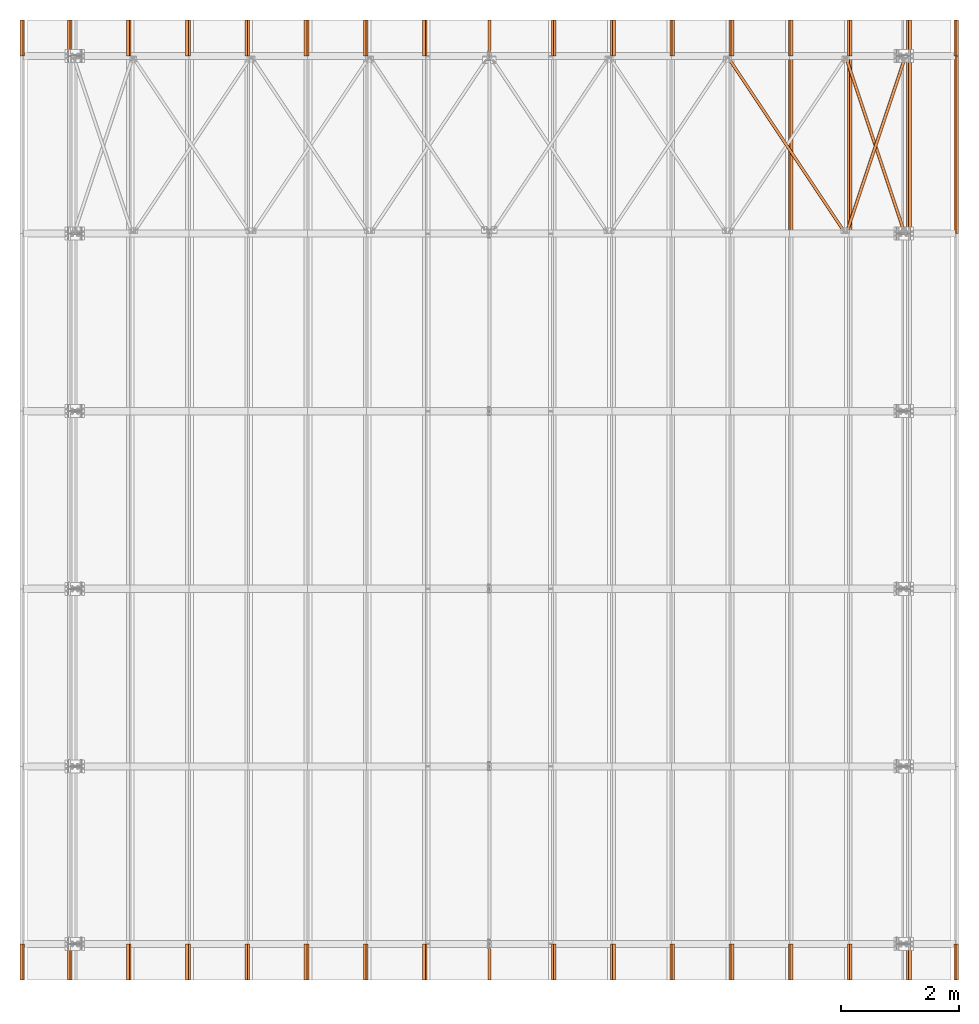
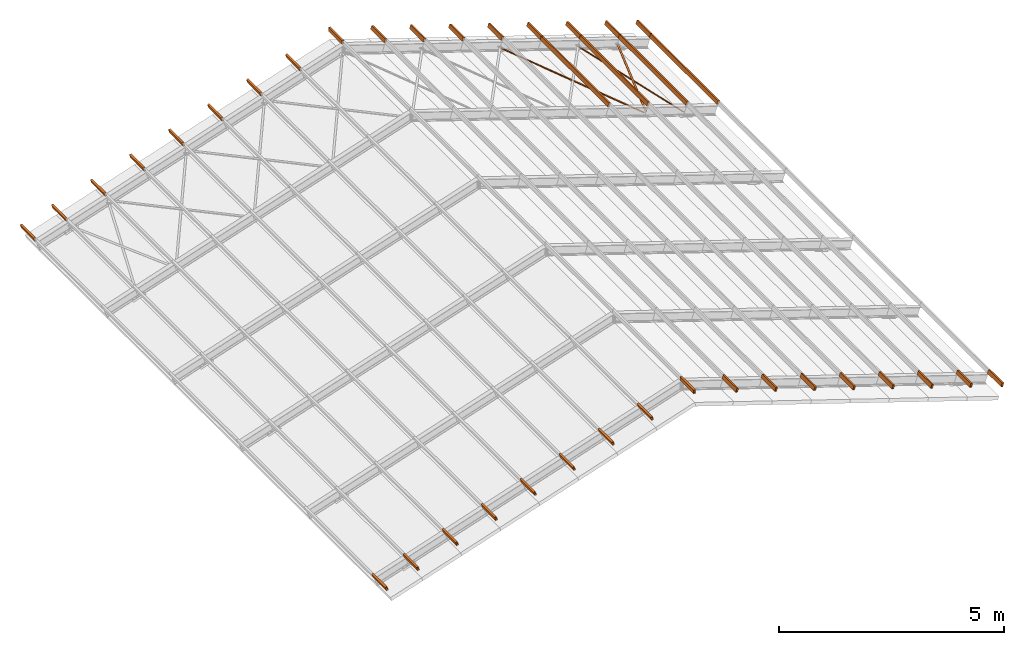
# One storey, part 53 of 53: 41 proxies.
"""IFC4 building model written with IfcOpenShell, lengths in metres."""

from ifc_helpers import new_model, si_unit, frame, frame_2d, origin_with_axes, origin_2d_with_axis, place, context, project, spatial, rectangle, hollow_rectangle, l_section, extrude, clip, halfspace, material, material_profile, profile_set, profile_usage, type_object, element, save


model = new_model("IFC4")

# Units and contexts
model_context = context("Model", 3, precision=1e-05, world=origin_with_axes())
ifc_project = project(units=[si_unit("LENGTHUNIT", "METRE"), si_unit("AREAUNIT", "SQUARE_METRE"), si_unit("VOLUMEUNIT", "CUBIC_METRE"), si_unit("MASSUNIT", "GRAM", prefix="KILO"), si_unit("TIMEUNIT", "SECOND"), si_unit("PLANEANGLEUNIT", "RADIAN"), si_unit("SOLIDANGLEUNIT", "STERADIAN"), si_unit("THERMODYNAMICTEMPERATUREUNIT", "DEGREE_CELSIUS")], contexts=[model_context])

# Site, building, storey
placement_1 = place(None, origin_with_axes())
site = spatial("IfcSite", under=ifc_project, at=placement_1, Name="Italia", CompositionType="ELEMENT")
building = spatial("IfcBuilding", under=site, at=placement_1, Name="Capannone", CompositionType="ELEMENT")
storey_placement = place(None, frame((0.0, 0.0, 5.550000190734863), z_axis=(0.0, 0.0, 1.0), x_axis=(1.0, 0.0, 0.0)))
storey = spatial("IfcBuildingStorey", under=building, at=storey_placement, Name="Storey 1", CompositionType="ELEMENT", Elevation=5.550000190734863)

# Proxies
ifc_material = material(Name="Acciaio", Category="Acciaio")
ifc_material_profile = material_profile(ifc_material, l_section(Depth=0.045, Width=0.045, Thickness=0.004, FilletRadius=0.0, EdgeRadius=0.0, at=origin_2d_with_axis()), Name="2 L45x4")
ifc_profile_set = profile_set([ifc_material_profile])
ifc_profile_usage_1 = profile_usage(ifc_profile_set, cardinal=8)
member_type_1 = type_object("IfcMemberType", Name="4 RHS100x50x3.2", PredefinedType="MEMBER", material=ifc_profile_usage_1)
placement_2 = place(placement_1, origin_with_axes())
proxy_1_placement = place(placement_2, origin_with_axes())
element("IfcBuildingElementProxy", 1, at=proxy_1_placement, inside=storey, type_object=member_type_1, Name="115", context=model_context, shape_type="SweptSolid", body=[
    extrude(hollow_rectangle(XDim=0.05, YDim=0.1, WallThickness=0.0032, at=origin_2d_with_axis()), frame((7.0, 0.0, 8.14), z_axis=(0.0, -1.0, 0.0), x_axis=(1.0, 0.0, 0.0)), (0.0, 0.0, 1.0), 0.61),
])
ifc_profile_usage_2 = profile_usage(ifc_profile_set, cardinal=8)
member_type_2 = type_object("IfcMemberType", Name="4 RHS100x50x3.2", PredefinedType="MEMBER", material=ifc_profile_usage_2)
proxy_2_placement = place(placement_2, origin_with_axes())
element("IfcBuildingElementProxy", 2, at=proxy_2_placement, inside=storey, type_object=member_type_2, Name="121", context=model_context, shape_type="SweptSolid", body=[
    extrude(hollow_rectangle(XDim=0.05, YDim=0.1, WallThickness=0.0032, at=frame_2d((0.0, 0.0), x_axis=(0.950032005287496, 0.312152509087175))), frame((13.0905, -0.61, 6.15408), z_axis=(0.0, 1.0, 0.0), x_axis=(-1.0, 0.0, 0.0)), (0.0, 0.0, 1.0), 0.61),
])
ifc_profile_usage_3 = profile_usage(ifc_profile_set, cardinal=8)
member_type_3 = type_object("IfcMemberType", Name="4 RHS100x50x3.2", PredefinedType="MEMBER", material=ifc_profile_usage_3)
proxy_3_placement = place(placement_2, origin_with_axes())
element("IfcBuildingElementProxy", 3, at=proxy_3_placement, inside=storey, type_object=member_type_3, Name="109", context=model_context, shape_type="SweptSolid", body=[
    extrude(hollow_rectangle(XDim=0.05, YDim=0.1, WallThickness=0.0032, at=frame_2d((0.0, 0.0), x_axis=(0.950032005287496, -0.312152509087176))), frame((0.909476, -0.61, 6.15408), z_axis=(0.0, 1.0, 7.81700237e-07), x_axis=(-1.0, 0.0, 0.0)), (0.0, 0.0, 1.0), 0.61),
])
ifc_profile_usage_4 = profile_usage(ifc_profile_set, cardinal=8)
member_type_4 = type_object("IfcMemberType", Name="4 RHS100x50x3.2", PredefinedType="MEMBER", material=ifc_profile_usage_4)
proxy_4_placement = place(placement_2, origin_with_axes())
element("IfcBuildingElementProxy", 4, at=proxy_4_placement, inside=storey, type_object=member_type_4, Name="114", context=model_context, shape_type="SweptSolid", body=[
    extrude(hollow_rectangle(XDim=0.05, YDim=0.1, WallThickness=0.0032, at=frame_2d((0.0, 0.0), x_axis=(0.950032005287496, -0.312152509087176))), frame((5.90948, -0.61, 7.79694), z_axis=(0.0, 1.0, 0.0), x_axis=(-1.0, 0.0, 0.0)), (0.0, 0.0, 1.0), 0.61),
])
ifc_profile_usage_5 = profile_usage(ifc_profile_set, cardinal=8)
member_type_5 = type_object("IfcMemberType", Name="4 RHS100x50x3.2", PredefinedType="MEMBER", material=ifc_profile_usage_5)
proxy_5_placement = place(placement_2, origin_with_axes())
element("IfcBuildingElementProxy", 5, at=proxy_5_placement, inside=storey, type_object=member_type_5, Name="113", context=model_context, shape_type="SweptSolid", body=[
    extrude(hollow_rectangle(XDim=0.05, YDim=0.1, WallThickness=0.0032, at=frame_2d((0.0, 0.0), x_axis=(0.950032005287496, -0.312152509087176))), frame((4.90948, -0.61, 7.46837), z_axis=(0.0, 1.0, 0.0), x_axis=(-1.0, 0.0, 0.0)), (0.0, 0.0, 1.0), 0.61),
])
ifc_profile_usage_6 = profile_usage(ifc_profile_set, cardinal=8)
member_type_6 = type_object("IfcMemberType", Name="4 RHS100x50x3.2", PredefinedType="MEMBER", material=ifc_profile_usage_6)
proxy_6_placement = place(placement_2, origin_with_axes())
element("IfcBuildingElementProxy", 6, at=proxy_6_placement, inside=storey, type_object=member_type_6, Name="112", context=model_context, shape_type="SweptSolid", body=[
    extrude(hollow_rectangle(XDim=0.05, YDim=0.1, WallThickness=0.0032, at=frame_2d((0.0, 0.0), x_axis=(0.950032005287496, -0.312152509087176))), frame((3.90948, -0.61, 7.13979), z_axis=(0.0, 1.0, 0.0), x_axis=(-1.0, 0.0, 0.0)), (0.0, 0.0, 1.0), 0.61),
])
ifc_profile_usage_7 = profile_usage(ifc_profile_set, cardinal=8)
member_type_7 = type_object("IfcMemberType", Name="4 RHS100x50x3.2", PredefinedType="MEMBER", material=ifc_profile_usage_7)
proxy_7_placement = place(placement_2, origin_with_axes())
element("IfcBuildingElementProxy", 7, at=proxy_7_placement, inside=storey, type_object=member_type_7, Name="111", context=model_context, shape_type="SweptSolid", body=[
    extrude(hollow_rectangle(XDim=0.05, YDim=0.1, WallThickness=0.0032, at=frame_2d((0.0, 0.0), x_axis=(0.950032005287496, -0.312152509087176))), frame((2.90948, -0.61, 6.81122), z_axis=(0.0, 1.0, 0.0), x_axis=(-1.0, 0.0, 0.0)), (0.0, 0.0, 1.0), 0.61),
])
ifc_profile_usage_8 = profile_usage(ifc_profile_set, cardinal=8)
member_type_8 = type_object("IfcMemberType", Name="4 RHS100x50x3.2", PredefinedType="MEMBER", material=ifc_profile_usage_8)
proxy_8_placement = place(placement_2, origin_with_axes())
element("IfcBuildingElementProxy", 8, at=proxy_8_placement, inside=storey, type_object=member_type_8, Name="110", context=model_context, shape_type="SweptSolid", body=[
    extrude(hollow_rectangle(XDim=0.05, YDim=0.1, WallThickness=0.0032, at=frame_2d((0.0, 0.0), x_axis=(0.950032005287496, -0.312152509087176))), frame((1.90948, -0.61, 6.48265), z_axis=(0.0, 1.0, 7.81700237e-07), x_axis=(-1.0, 0.0, 0.0)), (0.0, 0.0, 1.0), 0.61),
])
ifc_profile_usage_9 = profile_usage(ifc_profile_set, cardinal=8)
member_type_9 = type_object("IfcMemberType", Name="4 RHS100x50x3.2", PredefinedType="MEMBER", material=ifc_profile_usage_9)
proxy_9_placement = place(placement_2, origin_with_axes())
element("IfcBuildingElementProxy", 9, at=proxy_9_placement, inside=storey, type_object=member_type_9, Name="107", context=model_context, shape_type="SweptSolid", body=[
    extrude(hollow_rectangle(XDim=0.05, YDim=0.1, WallThickness=0.0032, at=frame_2d((0.0, 0.0), x_axis=(0.950032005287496, -0.312152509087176))), frame((-0.890524, -0.61, 5.56265), z_axis=(0.0, 1.0, 0.0), x_axis=(-1.0, 0.0, 0.0)), (0.0, 0.0, 1.0), 0.61),
])
ifc_profile_usage_10 = profile_usage(ifc_profile_set, cardinal=8)
member_type_10 = type_object("IfcMemberType", Name="4 RHS100x50x3.2", PredefinedType="MEMBER", material=ifc_profile_usage_10)
proxy_10_placement = place(placement_2, origin_with_axes())
element("IfcBuildingElementProxy", 10, at=proxy_10_placement, inside=storey, type_object=member_type_10, Name="108", context=model_context, shape_type="SweptSolid", body=[
    extrude(hollow_rectangle(XDim=0.05, YDim=0.1, WallThickness=0.0032, at=frame_2d((0.0, 0.0), x_axis=(0.950032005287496, -0.312152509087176))), frame((-0.0905242, -0.61, 5.82551), z_axis=(0.0, 1.0, 0.0), x_axis=(-1.0, 0.0, 0.0)), (0.0, 0.0, 1.0), 0.61),
])
ifc_profile_usage_11 = profile_usage(ifc_profile_set, cardinal=8)
member_type_11 = type_object("IfcMemberType", Name="4 RHS100x50x3.2", PredefinedType="MEMBER", material=ifc_profile_usage_11)
proxy_11_placement = place(placement_2, origin_with_axes())
element("IfcBuildingElementProxy", 11, at=proxy_11_placement, inside=storey, type_object=member_type_11, Name="108", context=model_context, shape_type="SweptSolid", body=[
    extrude(hollow_rectangle(XDim=0.05, YDim=0.1, WallThickness=0.0032, at=frame_2d((0.0, 0.0), x_axis=(0.950032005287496, -0.312152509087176))), frame((-0.0905242, 15.0, 5.82551), z_axis=(0.0, 1.0, 0.0), x_axis=(-1.0, 0.0, 0.0)), (0.0, 0.0, 1.0), 0.61),
])
ifc_profile_usage_12 = profile_usage(ifc_profile_set, cardinal=8)
member_type_12 = type_object("IfcMemberType", Name="4 RHS100x50x3.2", PredefinedType="MEMBER", material=ifc_profile_usage_12)
proxy_12_placement = place(placement_2, origin_with_axes())
element("IfcBuildingElementProxy", 12, at=proxy_12_placement, inside=storey, type_object=member_type_12, Name="107", context=model_context, shape_type="SweptSolid", body=[
    extrude(hollow_rectangle(XDim=0.05, YDim=0.1, WallThickness=0.0032, at=frame_2d((0.0, 0.0), x_axis=(0.950032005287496, -0.312152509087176))), frame((-0.890524, 15.0, 5.56265), z_axis=(0.0, 1.0, 0.0), x_axis=(-1.0, 0.0, 0.0)), (0.0, 0.0, 1.0), 0.61),
])
ifc_profile_usage_13 = profile_usage(ifc_profile_set, cardinal=8)
member_type_13 = type_object("IfcMemberType", Name="4 RHS100x50x3.2", PredefinedType="MEMBER", material=ifc_profile_usage_13)
proxy_13_placement = place(placement_2, origin_with_axes())
element("IfcBuildingElementProxy", 13, at=proxy_13_placement, inside=storey, type_object=member_type_13, Name="110", context=model_context, shape_type="SweptSolid", body=[
    extrude(hollow_rectangle(XDim=0.05, YDim=0.1, WallThickness=0.0032, at=frame_2d((0.0, 0.0), x_axis=(0.950032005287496, -0.312152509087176))), frame((1.90948, 15.0, 6.48265), z_axis=(0.0, 1.0, 0.0), x_axis=(-1.0, 0.0, 0.0)), (0.0, 0.0, 1.0), 0.61),
])
ifc_profile_usage_14 = profile_usage(ifc_profile_set, cardinal=8)
member_type_14 = type_object("IfcMemberType", Name="4 RHS100x50x3.2", PredefinedType="MEMBER", material=ifc_profile_usage_14)
proxy_14_placement = place(placement_2, origin_with_axes())
element("IfcBuildingElementProxy", 14, at=proxy_14_placement, inside=storey, type_object=member_type_14, Name="111", context=model_context, shape_type="SweptSolid", body=[
    extrude(hollow_rectangle(XDim=0.05, YDim=0.1, WallThickness=0.0032, at=frame_2d((0.0, 0.0), x_axis=(0.950032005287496, -0.312152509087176))), frame((2.90948, 15.0, 6.81122), z_axis=(0.0, 1.0, 0.0), x_axis=(-1.0, 0.0, 0.0)), (0.0, 0.0, 1.0), 0.61),
])
ifc_profile_usage_15 = profile_usage(ifc_profile_set, cardinal=8)
member_type_15 = type_object("IfcMemberType", Name="4 RHS100x50x3.2", PredefinedType="MEMBER", material=ifc_profile_usage_15)
proxy_15_placement = place(placement_2, origin_with_axes())
element("IfcBuildingElementProxy", 15, at=proxy_15_placement, inside=storey, type_object=member_type_15, Name="112", context=model_context, shape_type="SweptSolid", body=[
    extrude(hollow_rectangle(XDim=0.05, YDim=0.1, WallThickness=0.0032, at=frame_2d((0.0, 0.0), x_axis=(0.950032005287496, -0.312152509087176))), frame((3.90948, 15.0, 7.13979), z_axis=(0.0, 1.0, 0.0), x_axis=(-1.0, 0.0, 0.0)), (0.0, 0.0, 1.0), 0.61),
])
ifc_profile_usage_16 = profile_usage(ifc_profile_set, cardinal=8)
member_type_16 = type_object("IfcMemberType", Name="4 RHS100x50x3.2", PredefinedType="MEMBER", material=ifc_profile_usage_16)
proxy_16_placement = place(placement_2, origin_with_axes())
element("IfcBuildingElementProxy", 16, at=proxy_16_placement, inside=storey, type_object=member_type_16, Name="113", context=model_context, shape_type="SweptSolid", body=[
    extrude(hollow_rectangle(XDim=0.05, YDim=0.1, WallThickness=0.0032, at=frame_2d((0.0, 0.0), x_axis=(0.950032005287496, -0.312152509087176))), frame((4.90948, 15.0, 7.46837), z_axis=(0.0, 1.0, 0.0), x_axis=(-1.0, 0.0, 0.0)), (0.0, 0.0, 1.0), 0.61),
])
ifc_profile_usage_17 = profile_usage(ifc_profile_set, cardinal=8)
member_type_17 = type_object("IfcMemberType", Name="4 RHS100x50x3.2", PredefinedType="MEMBER", material=ifc_profile_usage_17)
proxy_17_placement = place(placement_2, origin_with_axes())
element("IfcBuildingElementProxy", 17, at=proxy_17_placement, inside=storey, type_object=member_type_17, Name="114", context=model_context, shape_type="SweptSolid", body=[
    extrude(hollow_rectangle(XDim=0.05, YDim=0.1, WallThickness=0.0032, at=frame_2d((0.0, 0.0), x_axis=(0.950032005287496, -0.312152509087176))), frame((5.90948, 15.0, 7.79694), z_axis=(0.0, 1.0, 0.0), x_axis=(-1.0, 0.0, 0.0)), (0.0, 0.0, 1.0), 0.61),
])
ifc_profile_usage_18 = profile_usage(ifc_profile_set, cardinal=8)
member_type_18 = type_object("IfcMemberType", Name="4 RHS100x50x3.2", PredefinedType="MEMBER", material=ifc_profile_usage_18)
proxy_18_placement = place(placement_2, origin_with_axes())
element("IfcBuildingElementProxy", 18, at=proxy_18_placement, inside=storey, type_object=member_type_18, Name="109", context=model_context, shape_type="SweptSolid", body=[
    extrude(hollow_rectangle(XDim=0.05, YDim=0.1, WallThickness=0.0032, at=frame_2d((0.0, 0.0), x_axis=(0.950032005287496, -0.312152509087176))), frame((0.909476, 15.0, 6.15408), z_axis=(0.0, 1.0, 0.0), x_axis=(-1.0, 0.0, 0.0)), (0.0, 0.0, 1.0), 0.61),
])
ifc_profile_usage_19 = profile_usage(ifc_profile_set, cardinal=8)
member_type_19 = type_object("IfcMemberType", Name="4 RHS100x50x3.2", PredefinedType="MEMBER", material=ifc_profile_usage_19)
proxy_19_placement = place(placement_2, origin_with_axes())
element("IfcBuildingElementProxy", 19, at=proxy_19_placement, inside=storey, type_object=member_type_19, Name="121", context=model_context, shape_type="SweptSolid", body=[
    extrude(hollow_rectangle(XDim=0.05, YDim=0.1, WallThickness=0.0032, at=frame_2d((0.0, 0.0), x_axis=(0.950032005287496, 0.312152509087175))), frame((13.0905, 15.0, 6.15408), z_axis=(0.0, 1.0, 0.0), x_axis=(-1.0, 0.0, 0.0)), (0.0, 0.0, 1.0), 0.61),
])
ifc_profile_usage_20 = profile_usage(ifc_profile_set, cardinal=8)
member_type_20 = type_object("IfcMemberType", Name="4 RHS100x50x3.2", PredefinedType="MEMBER", material=ifc_profile_usage_20)
proxy_20_placement = place(placement_2, origin_with_axes())
element("IfcBuildingElementProxy", 20, at=proxy_20_placement, inside=storey, type_object=member_type_20, Name="115", context=model_context, shape_type="SweptSolid", body=[
    extrude(hollow_rectangle(XDim=0.05, YDim=0.1, WallThickness=0.0032, at=origin_2d_with_axis()), frame((7.0, 15.61, 8.14), z_axis=(0.0, -1.0, 0.0), x_axis=(1.0, 0.0, 0.0)), (0.0, 0.0, 1.0), 0.61),
])
ifc_profile_usage_21 = profile_usage(ifc_profile_set, cardinal=8)
member_type_21 = type_object("IfcMemberType", Name="4 RHS100x50x3.2", PredefinedType="MEMBER", material=ifc_profile_usage_21)
proxy_21_placement = place(placement_2, origin_with_axes())
element("IfcBuildingElementProxy", 21, at=proxy_21_placement, inside=storey, type_object=member_type_21, Name="116", context=model_context, shape_type="SweptSolid", body=[
    extrude(hollow_rectangle(XDim=0.05, YDim=0.1, WallThickness=0.0032, at=frame_2d((0.0, 0.0), x_axis=(0.950032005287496, 0.312152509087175))), frame((8.09052, 15.0, 7.79694), z_axis=(0.0, 1.0, 0.0), x_axis=(-1.0, 0.0, 0.0)), (0.0, 0.0, 1.0), 0.61),
])
ifc_profile_usage_22 = profile_usage(ifc_profile_set, cardinal=8)
member_type_22 = type_object("IfcMemberType", Name="4 RHS100x50x3.2", PredefinedType="MEMBER", material=ifc_profile_usage_22)
proxy_22_placement = place(placement_2, origin_with_axes())
element("IfcBuildingElementProxy", 22, at=proxy_22_placement, inside=storey, type_object=member_type_22, Name="117", context=model_context, shape_type="SweptSolid", body=[
    extrude(hollow_rectangle(XDim=0.05, YDim=0.1, WallThickness=0.0032, at=frame_2d((0.0, 0.0), x_axis=(0.950032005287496, 0.312152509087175))), frame((9.09052, 15.0, 7.46837), z_axis=(0.0, 1.0, 0.0), x_axis=(-1.0, 0.0, 0.0)), (0.0, 0.0, 1.0), 0.61),
])
ifc_profile_usage_23 = profile_usage(ifc_profile_set, cardinal=8)
member_type_23 = type_object("IfcMemberType", Name="4 RHS100x50x3.2", PredefinedType="MEMBER", material=ifc_profile_usage_23)
proxy_23_placement = place(placement_2, origin_with_axes())
element("IfcBuildingElementProxy", 23, at=proxy_23_placement, inside=storey, type_object=member_type_23, Name="118", context=model_context, shape_type="SweptSolid", body=[
    extrude(hollow_rectangle(XDim=0.05, YDim=0.1, WallThickness=0.0032, at=frame_2d((0.0, 0.0), x_axis=(0.950032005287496, 0.312152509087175))), frame((10.0905, 15.0, 7.1398), z_axis=(0.0, 1.0, 0.0), x_axis=(-1.0, 0.0, 0.0)), (0.0, 0.0, 1.0), 0.61),
])
ifc_profile_usage_24 = profile_usage(ifc_profile_set, cardinal=8)
member_type_24 = type_object("IfcMemberType", Name="4 RHS100x50x3.2", PredefinedType="MEMBER", material=ifc_profile_usage_24)
proxy_24_placement = place(placement_2, origin_with_axes())
element("IfcBuildingElementProxy", 24, at=proxy_24_placement, inside=storey, type_object=member_type_24, Name="119", context=model_context, shape_type="SweptSolid", body=[
    extrude(hollow_rectangle(XDim=0.05, YDim=0.1, WallThickness=0.0032, at=frame_2d((0.0, 0.0), x_axis=(0.950032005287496, 0.312152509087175))), frame((11.0905, 15.0, 6.81122), z_axis=(0.0, 1.0, 0.0), x_axis=(-1.0, 0.0, 0.0)), (0.0, 0.0, 1.0), 0.61),
])
ifc_profile_usage_25 = profile_usage(ifc_profile_set, cardinal=8)
member_type_25 = type_object("IfcMemberType", Name="4 RHS100x50x3.2", PredefinedType="MEMBER", material=ifc_profile_usage_25)
proxy_25_placement = place(placement_2, origin_with_axes())
element("IfcBuildingElementProxy", 25, at=proxy_25_placement, inside=storey, type_object=member_type_25, Name="120", context=model_context, shape_type="SweptSolid", body=[
    extrude(hollow_rectangle(XDim=0.05, YDim=0.1, WallThickness=0.0032, at=frame_2d((0.0, 0.0), x_axis=(0.950032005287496, 0.312152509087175))), frame((12.0905, 15.0, 6.48265), z_axis=(0.0, 1.0, 0.0), x_axis=(-1.0, 0.0, 0.0)), (0.0, 0.0, 1.0), 0.61),
])
ifc_profile_usage_26 = profile_usage(ifc_profile_set, cardinal=8)
member_type_26 = type_object("IfcMemberType", Name="4 RHS100x50x3.2", PredefinedType="MEMBER", material=ifc_profile_usage_26)
proxy_26_placement = place(placement_2, origin_with_axes())
element("IfcBuildingElementProxy", 26, at=proxy_26_placement, inside=storey, type_object=member_type_26, Name="123", context=model_context, shape_type="SweptSolid", body=[
    extrude(hollow_rectangle(XDim=0.05, YDim=0.1, WallThickness=0.0032, at=frame_2d((0.0, 0.0), x_axis=(0.950032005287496, 0.312152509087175))), frame((14.8905, 15.0, 5.56265), z_axis=(0.0, 1.0, 0.0), x_axis=(-1.0, 0.0, 0.0)), (0.0, 0.0, 1.0), 0.61),
])
ifc_profile_usage_27 = profile_usage(ifc_profile_set, cardinal=8)
member_type_27 = type_object("IfcMemberType", Name="4 RHS100x50x3.2", PredefinedType="MEMBER", material=ifc_profile_usage_27)
proxy_27_placement = place(placement_2, origin_with_axes())
element("IfcBuildingElementProxy", 27, at=proxy_27_placement, inside=storey, type_object=member_type_27, Name="122", context=model_context, shape_type="SweptSolid", body=[
    extrude(hollow_rectangle(XDim=0.05, YDim=0.1, WallThickness=0.0032, at=frame_2d((0.0, 0.0), x_axis=(0.950032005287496, 0.312152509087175))), frame((14.0905, 15.0, 5.82551), z_axis=(0.0, 1.0, 0.0), x_axis=(-1.0, 0.0, 0.0)), (0.0, 0.0, 1.0), 0.61),
])
ifc_profile_usage_28 = profile_usage(ifc_profile_set, cardinal=8)
member_type_28 = type_object("IfcMemberType", Name="4 RHS100x50x3.2", PredefinedType="MEMBER", material=ifc_profile_usage_28)
proxy_28_placement = place(placement_2, origin_with_axes())
element("IfcBuildingElementProxy", 28, at=proxy_28_placement, inside=storey, type_object=member_type_28, Name="122", context=model_context, shape_type="SweptSolid", body=[
    extrude(hollow_rectangle(XDim=0.05, YDim=0.1, WallThickness=0.0032, at=frame_2d((0.0, 0.0), x_axis=(0.950032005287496, 0.312152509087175))), frame((14.0905, -0.61, 5.82551), z_axis=(0.0, 1.0, 0.0), x_axis=(-1.0, 0.0, 0.0)), (0.0, 0.0, 1.0), 0.61),
])
ifc_profile_usage_29 = profile_usage(ifc_profile_set, cardinal=8)
member_type_29 = type_object("IfcMemberType", Name="4 RHS100x50x3.2", PredefinedType="MEMBER", material=ifc_profile_usage_29)
proxy_29_placement = place(placement_2, origin_with_axes())
element("IfcBuildingElementProxy", 29, at=proxy_29_placement, inside=storey, type_object=member_type_29, Name="123", context=model_context, shape_type="SweptSolid", body=[
    extrude(hollow_rectangle(XDim=0.05, YDim=0.1, WallThickness=0.0032, at=frame_2d((0.0, 0.0), x_axis=(0.950032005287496, 0.312152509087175))), frame((14.8905, -0.61, 5.56265), z_axis=(0.0, 1.0, 0.0), x_axis=(-1.0, 0.0, 0.0)), (0.0, 0.0, 1.0), 0.61),
])
ifc_profile_usage_30 = profile_usage(ifc_profile_set, cardinal=8)
member_type_30 = type_object("IfcMemberType", Name="4 RHS100x50x3.2", PredefinedType="MEMBER", material=ifc_profile_usage_30)
proxy_30_placement = place(placement_2, origin_with_axes())
element("IfcBuildingElementProxy", 30, at=proxy_30_placement, inside=storey, type_object=member_type_30, Name="120", context=model_context, shape_type="SweptSolid", body=[
    extrude(hollow_rectangle(XDim=0.05, YDim=0.1, WallThickness=0.0032, at=frame_2d((0.0, 0.0), x_axis=(0.950032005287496, 0.312152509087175))), frame((12.0905, -0.61, 6.48265), z_axis=(0.0, 1.0, 0.0), x_axis=(-1.0, 0.0, 0.0)), (0.0, 0.0, 1.0), 0.61),
])
ifc_profile_usage_31 = profile_usage(ifc_profile_set, cardinal=8)
member_type_31 = type_object("IfcMemberType", Name="4 RHS100x50x3.2", PredefinedType="MEMBER", material=ifc_profile_usage_31)
proxy_31_placement = place(placement_2, origin_with_axes())
element("IfcBuildingElementProxy", 31, at=proxy_31_placement, inside=storey, type_object=member_type_31, Name="119", context=model_context, shape_type="SweptSolid", body=[
    extrude(hollow_rectangle(XDim=0.05, YDim=0.1, WallThickness=0.0032, at=frame_2d((0.0, 0.0), x_axis=(0.950032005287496, 0.312152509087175))), frame((11.0905, -0.61, 6.81122), z_axis=(0.0, 1.0, 0.0), x_axis=(-1.0, 0.0, 0.0)), (0.0, 0.0, 1.0), 0.61),
])
ifc_profile_usage_32 = profile_usage(ifc_profile_set, cardinal=8)
member_type_32 = type_object("IfcMemberType", Name="4 RHS100x50x3.2", PredefinedType="MEMBER", material=ifc_profile_usage_32)
proxy_32_placement = place(placement_2, origin_with_axes())
element("IfcBuildingElementProxy", 32, at=proxy_32_placement, inside=storey, type_object=member_type_32, Name="118", context=model_context, shape_type="SweptSolid", body=[
    extrude(hollow_rectangle(XDim=0.05, YDim=0.1, WallThickness=0.0032, at=frame_2d((0.0, 0.0), x_axis=(0.950032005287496, 0.312152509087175))), frame((10.0905, -0.61, 7.1398), z_axis=(0.0, 1.0, 0.0), x_axis=(-1.0, 0.0, 0.0)), (0.0, 0.0, 1.0), 0.61),
])
ifc_profile_usage_33 = profile_usage(ifc_profile_set, cardinal=8)
member_type_33 = type_object("IfcMemberType", Name="4 RHS100x50x3.2", PredefinedType="MEMBER", material=ifc_profile_usage_33)
proxy_33_placement = place(placement_2, origin_with_axes())
element("IfcBuildingElementProxy", 33, at=proxy_33_placement, inside=storey, type_object=member_type_33, Name="117", context=model_context, shape_type="SweptSolid", body=[
    extrude(hollow_rectangle(XDim=0.05, YDim=0.1, WallThickness=0.0032, at=frame_2d((0.0, 0.0), x_axis=(0.950032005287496, 0.312152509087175))), frame((9.09052, -0.61, 7.46837), z_axis=(0.0, 1.0, 0.0), x_axis=(-1.0, 0.0, 0.0)), (0.0, 0.0, 1.0), 0.61),
])
ifc_profile_usage_34 = profile_usage(ifc_profile_set, cardinal=8)
member_type_34 = type_object("IfcMemberType", Name="4 RHS100x50x3.2", PredefinedType="MEMBER", material=ifc_profile_usage_34)
proxy_34_placement = place(placement_2, origin_with_axes())
element("IfcBuildingElementProxy", 34, at=proxy_34_placement, inside=storey, type_object=member_type_34, Name="116", context=model_context, shape_type="SweptSolid", body=[
    extrude(hollow_rectangle(XDim=0.05, YDim=0.1, WallThickness=0.0032, at=frame_2d((0.0, 0.0), x_axis=(0.950032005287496, 0.312152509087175))), frame((8.09052, -0.61, 7.79694), z_axis=(0.0, 1.0, 0.0), x_axis=(-1.0, 0.0, 0.0)), (0.0, 0.0, 1.0), 0.61),
])
ifc_profile_usage_35 = profile_usage(ifc_profile_set, cardinal=5)
member_type_35 = type_object("IfcMemberType", Name="1 Piatto 50x5", PredefinedType="MEMBER", material=ifc_profile_usage_35)
proxy_35_placement = place(placement_2, frame((14.018730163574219, 10.5, 5.607001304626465), z_axis=(0.0, 0.0, 1.0), x_axis=(1.0, 0.0, 0.0)))
element("IfcBuildingElementProxy", 35, at=proxy_35_placement, inside=storey, type_object=member_type_35, Name="134", context=model_context, shape_type="Clipping", body=[
    clip(clip(extrude(rectangle(XDim=0.005, YDim=0.05, at=frame_2d((0.0, 0.0), x_axis=(-0.259727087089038, 0.965682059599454))), frame((0.0, 0.0, 0.0), z_axis=(-0.545710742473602, 0.818565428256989, 0.179305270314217), x_axis=(-0.832050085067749, -0.554700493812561, 0.0)), (0.0, 0.0, 1.0), 7.32989), halfspace(frame((-1.01655, 1.52483, 0.334011), z_axis=(0.54572319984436, -0.818551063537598, -0.179333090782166), x_axis=(0.832039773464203, 0.554716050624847, 0.0)), False)), halfspace(frame((-2.98345, 4.47517, 0.980278), z_axis=(0.545792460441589, -0.818567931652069, -0.179044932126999), x_axis=(0.832012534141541, 0.554756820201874, 0.0)), True)),
])
ifc_profile_usage_36 = profile_usage(ifc_profile_set, cardinal=5)
member_type_36 = type_object("IfcMemberType", Name="1 Piatto 50x5", PredefinedType="MEMBER", material=ifc_profile_usage_36)
proxy_36_placement = place(placement_2, frame((14.518728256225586, 10.5, 5.4427170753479), z_axis=(0.0, 0.0, 1.0), x_axis=(1.0, 0.0, 0.0)))
element("IfcBuildingElementProxy", 36, at=proxy_36_placement, inside=storey, type_object=member_type_36, Name="133", context=model_context, shape_type="Clipping", body=[
    clip(clip(extrude(rectangle(XDim=0.005, YDim=0.05, at=frame_2d((0.0, 0.0), x_axis=(0.296133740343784, -0.955146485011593))), frame((0.0, 0.0, 0.0), z_axis=(-0.314534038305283, 0.94360363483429, 0.103346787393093), x_axis=(-0.948683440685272, -0.316227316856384, 0.0)), (0.0, 0.0, 1.0), 6.3586), halfspace(frame((-0.506441, 1.51933, 0.166401), z_axis=(0.314541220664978, -0.943606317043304, -0.103300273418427), x_axis=(0.948681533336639, 0.316232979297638, 0.0)), False)), halfspace(frame((-1.49369, 4.48107, 0.490783), z_axis=(0.314531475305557, -0.943607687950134, -0.103317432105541), x_axis=(0.948684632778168, 0.31622377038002, 0.0)), True)),
])
ifc_profile_usage_37 = profile_usage(ifc_profile_set, cardinal=5)
member_type_37 = type_object("IfcMemberType", Name="1 Piatto 50x5", PredefinedType="MEMBER", material=ifc_profile_usage_37)
proxy_37_placement = place(placement_2, frame((14.531213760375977, 16.5, 5.48071813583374), z_axis=(0.0, 0.0, 1.0), x_axis=(1.0, 0.0, 0.0)))
element("IfcBuildingElementProxy", 37, at=proxy_37_placement, inside=storey, type_object=member_type_37, Name="138", context=model_context, shape_type="Clipping", body=[
    clip(clip(extrude(rectangle(XDim=0.005, YDim=0.05, at=frame_2d((0.0, 0.0), x_axis=(-0.296135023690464, -0.955146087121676))), frame((0.0, 0.0, 0.0), z_axis=(-0.314533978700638, -0.94360363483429, 0.103346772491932), x_axis=(0.948683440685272, -0.31622725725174, 0.0)), (0.0, 0.0, 1.0), 6.3586), halfspace(frame((-0.50644, -1.51933, 0.166402), z_axis=(0.3145632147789, 0.943599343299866, -0.10329681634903), x_axis=(-0.948674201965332, 0.316255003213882, 0.0)), False)), halfspace(frame((-1.49369, -4.48107, 0.490783), z_axis=(0.314502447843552, 0.943605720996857, -0.103424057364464), x_axis=(-0.948693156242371, 0.316198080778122, 0.0)), True)),
])
ifc_profile_usage_38 = profile_usage(ifc_profile_set, cardinal=8)
member_type_38 = type_object("IfcMemberType", Name="4 RHS100x50x3.2", PredefinedType="MEMBER", material=ifc_profile_usage_38)
proxy_38_placement = place(placement_2, origin_with_axes())
element("IfcBuildingElementProxy", 38, at=proxy_38_placement, inside=storey, type_object=member_type_38, Name="123", context=model_context, shape_type="SweptSolid", body=[
    extrude(hollow_rectangle(XDim=0.05, YDim=0.1, WallThickness=0.0032, at=frame_2d((0.0, 0.0), x_axis=(0.950032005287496, 0.312152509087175))), frame((14.8905, 12.0, 5.56265), z_axis=(0.0, 1.0, 0.0), x_axis=(-1.0, 0.0, 0.0)), (0.0, 0.0, 1.0), 3.0),
])
ifc_profile_usage_39 = profile_usage(ifc_profile_set, cardinal=8)
member_type_39 = type_object("IfcMemberType", Name="4 RHS100x50x3.2", PredefinedType="MEMBER", material=ifc_profile_usage_39)
proxy_39_placement = place(placement_2, origin_with_axes())
element("IfcBuildingElementProxy", 39, at=proxy_39_placement, inside=storey, type_object=member_type_39, Name="122", context=model_context, shape_type="SweptSolid", body=[
    extrude(hollow_rectangle(XDim=0.05, YDim=0.1, WallThickness=0.0032, at=frame_2d((0.0, 0.0), x_axis=(0.950032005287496, 0.312152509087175))), frame((14.0905, 12.0, 5.82551), z_axis=(0.0, 1.0, 0.0), x_axis=(-1.0, 0.0, 0.0)), (0.0, 0.0, 1.0), 3.0),
])
ifc_profile_usage_40 = profile_usage(ifc_profile_set, cardinal=8)
member_type_40 = type_object("IfcMemberType", Name="4 RHS100x50x3.2", PredefinedType="MEMBER", material=ifc_profile_usage_40)
proxy_40_placement = place(placement_2, origin_with_axes())
element("IfcBuildingElementProxy", 40, at=proxy_40_placement, inside=storey, type_object=member_type_40, Name="120", context=model_context, shape_type="SweptSolid", body=[
    extrude(hollow_rectangle(XDim=0.05, YDim=0.1, WallThickness=0.0032, at=frame_2d((0.0, 0.0), x_axis=(0.950032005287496, 0.312152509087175))), frame((12.0905, 12.0, 6.48265), z_axis=(0.0, 1.0, 0.0), x_axis=(-1.0, 0.0, 0.0)), (0.0, 0.0, 1.0), 3.0),
])
ifc_profile_usage_41 = profile_usage(ifc_profile_set, cardinal=8)
member_type_41 = type_object("IfcMemberType", Name="4 RHS100x50x3.2", PredefinedType="MEMBER", material=ifc_profile_usage_41)
proxy_41_placement = place(placement_2, origin_with_axes())
element("IfcBuildingElementProxy", 41, at=proxy_41_placement, inside=storey, type_object=member_type_41, Name="121", context=model_context, shape_type="SweptSolid", body=[
    extrude(hollow_rectangle(XDim=0.05, YDim=0.1, WallThickness=0.0032, at=frame_2d((0.0, 0.0), x_axis=(0.950032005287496, 0.312152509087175))), frame((13.0905, 12.0, 6.15408), z_axis=(0.0, 1.0, 0.0), x_axis=(-1.0, 0.0, 0.0)), (0.0, 0.0, 1.0), 3.0),
])

save(model, "model.ifc")
